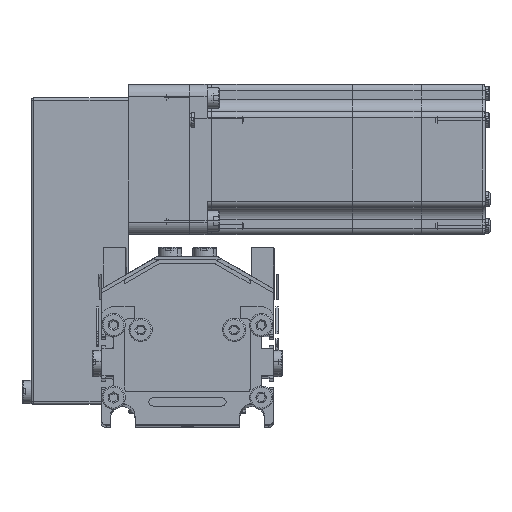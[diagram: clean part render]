
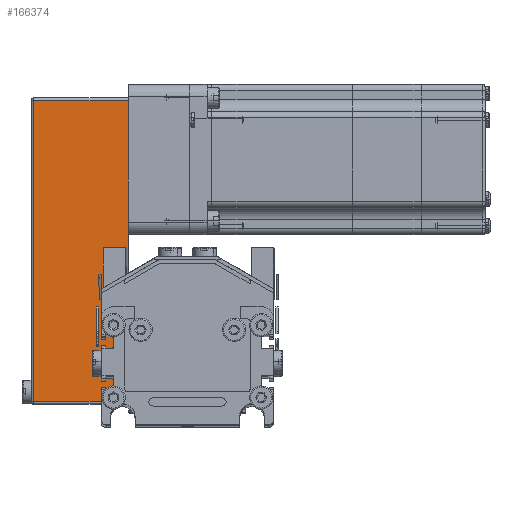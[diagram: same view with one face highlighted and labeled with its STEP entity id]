
A CAD part, top view. The second image highlights one B-rep face of the part: STEP entity #166374.
In plain terms, the highlighted planar face has unit normal (0, 0, 1) as drawn and (0, -1, 0) by its records, which use the part's own axes.
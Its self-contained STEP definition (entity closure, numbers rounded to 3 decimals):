
#69880 = VERTEX_POINT ( 'NONE', #172307 ) ;
#69902 = EDGE_CURVE ( 'NONE', #69880, #166289, #172499, .T. ) ;
#111487 = CARTESIAN_POINT ( 'NONE',  ( 73.5, -25., 0. ) ) ;
#112027 = FACE_OUTER_BOUND ( 'NONE', #166568, .T. ) ;
#112036 = AXIS2_PLACEMENT_3D ( 'NONE', #112113, #112109, #112108 ) ;
#112038 = PLANE ( 'NONE',  #112036 ) ;
#112106 = LINE ( 'NONE', #112132, #112175 ) ;
#112108 = DIRECTION ( 'NONE',  ( 0., 0., 1. ) ) ;
#112109 = DIRECTION ( 'NONE',  ( 0., 1., 0. ) ) ;
#112113 = CARTESIAN_POINT ( 'NONE',  ( -50., -25., 39.5 ) ) ;
#112123 = CARTESIAN_POINT ( 'NONE',  ( -49., -25., 38.5 ) ) ;
#112125 = VECTOR ( 'NONE', #112189, 1000. ) ;
#112126 = CARTESIAN_POINT ( 'NONE',  ( 73.5, -25., 39.5 ) ) ;
#112127 = LINE ( 'NONE', #112126, #112125 ) ;
#112128 = VECTOR ( 'NONE', #112172, 1000. ) ;
#112130 = LINE ( 'NONE', #112173, #112128 ) ;
#112131 = DIRECTION ( 'NONE',  ( 0., 0., -1. ) ) ;
#112132 = CARTESIAN_POINT ( 'NONE',  ( -49., -25., 39.5 ) ) ;
#112172 = DIRECTION ( 'NONE',  ( -1., 0., 0. ) ) ;
#112173 = CARTESIAN_POINT ( 'NONE',  ( -50., -25., 38.5 ) ) ;
#112175 = VECTOR ( 'NONE', #112131, 1000. ) ;
#112189 = DIRECTION ( 'NONE',  ( 0., 0., 1. ) ) ;
#112773 = CARTESIAN_POINT ( 'NONE',  ( 73.5, -25., 38.5 ) ) ;
#166289 = VERTEX_POINT ( 'NONE', #111487 ) ;
#166374 = ADVANCED_FACE ( 'NONE', ( #112027 ), #112038, .F. ) ;
#166376 = ORIENTED_EDGE ( 'NONE', *, *, #166379, .T. ) ;
#166377 = EDGE_CURVE ( 'NONE', #166383, #69880, #112106, .T. ) ;
#166379 = EDGE_CURVE ( 'NONE', #166498, #166383, #112130, .T. ) ;
#166380 = EDGE_CURVE ( 'NONE', #166289, #166498, #112127, .T. ) ;
#166383 = VERTEX_POINT ( 'NONE', #112123 ) ;
#166385 = ORIENTED_EDGE ( 'NONE', *, *, #166377, .T. ) ;
#166388 = ORIENTED_EDGE ( 'NONE', *, *, #69902, .T. ) ;
#166494 = ORIENTED_EDGE ( 'NONE', *, *, #166380, .T. ) ;
#166498 = VERTEX_POINT ( 'NONE', #112773 ) ;
#166568 = EDGE_LOOP ( 'NONE', ( #166376, #166385, #166388, #166494 ) ) ;
#172307 = CARTESIAN_POINT ( 'NONE',  ( -49., -25., 0. ) ) ;
#172494 = DIRECTION ( 'NONE',  ( 1., 0., 0. ) ) ;
#172495 = VECTOR ( 'NONE', #172494, 1000. ) ;
#172496 = CARTESIAN_POINT ( 'NONE',  ( -50., -25., 0. ) ) ;
#172499 = LINE ( 'NONE', #172496, #172495 ) ;
